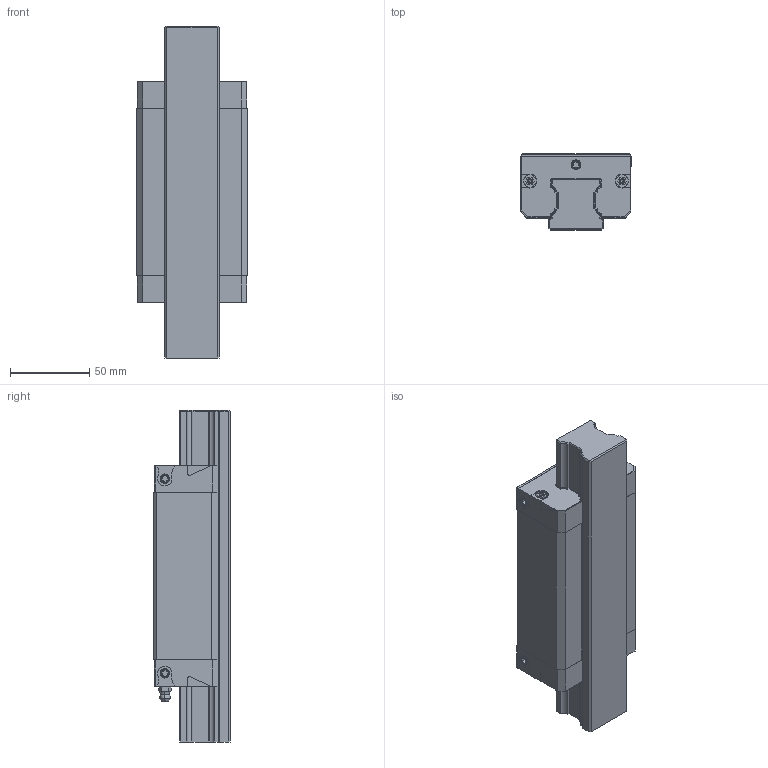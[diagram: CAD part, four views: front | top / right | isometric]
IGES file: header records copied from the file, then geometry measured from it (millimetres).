
Start section: 3D InterOp IGES (v. 2019 1.0.2), Spatial Corp. Copyright (c) 1999-2017.
Global section: file name: R1623_size35.igs; native system: Spatial Corp.; preprocessor: 3D InterOp GENERIC/IGES 3.0; author: Noname; organization: Noname; date: 20220629.124917; units: millimetre
Bounding box: 70 x 48 x 209 mm (x, y, z)
Surface area: 95628.4 mm2 (no closed solid volume)
Topology: 0 solids, 0 shells, 525 faces, 2772 edges, 2742 vertices
Faces by surface type: extrusion 292, revolution 233
